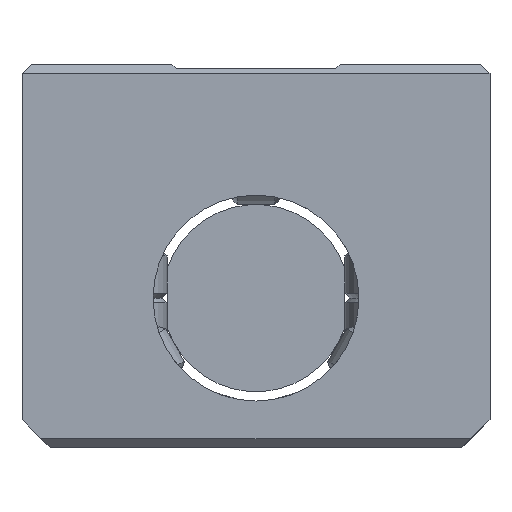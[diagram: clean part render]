
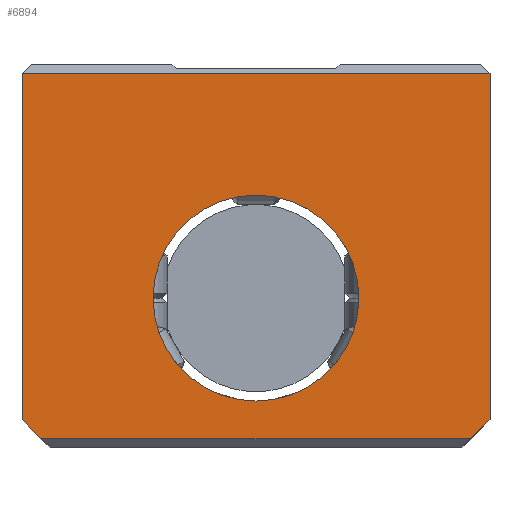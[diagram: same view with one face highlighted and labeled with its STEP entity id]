
A CAD part, left-side view. The second image highlights one B-rep face of the part: STEP entity #6894.
In plain terms, the highlighted planar face has unit normal (-1, 0, 0).
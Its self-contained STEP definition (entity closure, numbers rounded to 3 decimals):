
#5685=CARTESIAN_POINT('',(193.904,11.0,0.));
#5686=VERTEX_POINT('',#5685);
#5687=CARTESIAN_POINT('',(193.904,0.0,0.0));
#5688=DIRECTION('',(1.0,0.0,0.0));
#5689=DIRECTION('',(0.0,-1.0,0.0));
#5690=AXIS2_PLACEMENT_3D('',#5687,#5688,#5689);
#5691=CIRCLE('',#5690,11.0);
#5692=EDGE_CURVE('',#5686,#5686,#5691,.T.);
#6244=CARTESIAN_POINT('',(193.904,-25.0,24.));
#6245=VERTEX_POINT('',#6244);
#6254=CARTESIAN_POINT('',(193.904,-25.0,-13.));
#6255=VERTEX_POINT('',#6254);
#6256=CARTESIAN_POINT('',(193.904,-25.0,24.));
#6257=DIRECTION('',(0.0,0.0,-1.0));
#6258=VECTOR('',#6257,37.);
#6259=LINE('',#6256,#6258);
#6260=EDGE_CURVE('',#6245,#6255,#6259,.T.);
#6705=CARTESIAN_POINT('',(193.904,25.0,24.));
#6706=VERTEX_POINT('',#6705);
#6713=CARTESIAN_POINT('',(193.904,25.0,24.));
#6714=DIRECTION('',(0.0,-1.0,0.0));
#6715=VECTOR('',#6714,50.0);
#6716=LINE('',#6713,#6715);
#6717=EDGE_CURVE('',#6706,#6245,#6716,.T.);
#6824=CARTESIAN_POINT('',(193.904,-23.,-15.));
#6825=VERTEX_POINT('',#6824);
#6826=CARTESIAN_POINT('',(193.904,-25.0,-13.));
#6827=DIRECTION('',(0.0,0.707,-0.707));
#6828=VECTOR('',#6827,2.828);
#6829=LINE('',#6826,#6828);
#6830=EDGE_CURVE('',#6255,#6825,#6829,.T.);
#6847=CARTESIAN_POINT('',(193.904,23.,-15.));
#6848=VERTEX_POINT('',#6847);
#6857=CARTESIAN_POINT('',(193.904,-23.,-15.));
#6858=DIRECTION('',(0.0,1.0,0.0));
#6859=VECTOR('',#6858,46.);
#6860=LINE('',#6857,#6859);
#6861=EDGE_CURVE('',#6825,#6848,#6860,.T.);
#6866=CARTESIAN_POINT('',(193.904,-17.,24.75));
#6867=DIRECTION('',(1.0,0.0,0.0));
#6868=DIRECTION('',(0.0,0.0,-1.0));
#6869=AXIS2_PLACEMENT_3D('',#6866,#6867,#6868);
#6870=PLANE('',#6869);
#6871=ORIENTED_EDGE('',*,*,#6861,.F.);
#6872=ORIENTED_EDGE('',*,*,#6830,.F.);
#6873=ORIENTED_EDGE('',*,*,#6260,.F.);
#6874=ORIENTED_EDGE('',*,*,#6717,.F.);
#6875=CARTESIAN_POINT('',(193.904,25.0,-13.));
#6876=VERTEX_POINT('',#6875);
#6877=CARTESIAN_POINT('',(193.904,25.0,-13.));
#6878=DIRECTION('',(0.0,0.0,1.0));
#6879=VECTOR('',#6878,37.);
#6880=LINE('',#6877,#6879);
#6881=EDGE_CURVE('',#6876,#6706,#6880,.T.);
#6882=ORIENTED_EDGE('',*,*,#6881,.F.);
#6883=CARTESIAN_POINT('',(193.904,23.,-15.));
#6884=DIRECTION('',(0.0,0.707,0.707));
#6885=VECTOR('',#6884,2.828);
#6886=LINE('',#6883,#6885);
#6887=EDGE_CURVE('',#6848,#6876,#6886,.T.);
#6888=ORIENTED_EDGE('',*,*,#6887,.F.);
#6889=EDGE_LOOP('',(#6871,#6872,#6873,#6874,#6882,#6888));
#6890=FACE_OUTER_BOUND('',#6889,.T.);
#6891=ORIENTED_EDGE('',*,*,#5692,.T.);
#6892=EDGE_LOOP('',(#6891));
#6893=FACE_BOUND('',#6892,.T.);
#6894=ADVANCED_FACE('',(#6890,#6893),#6870,.F.);
